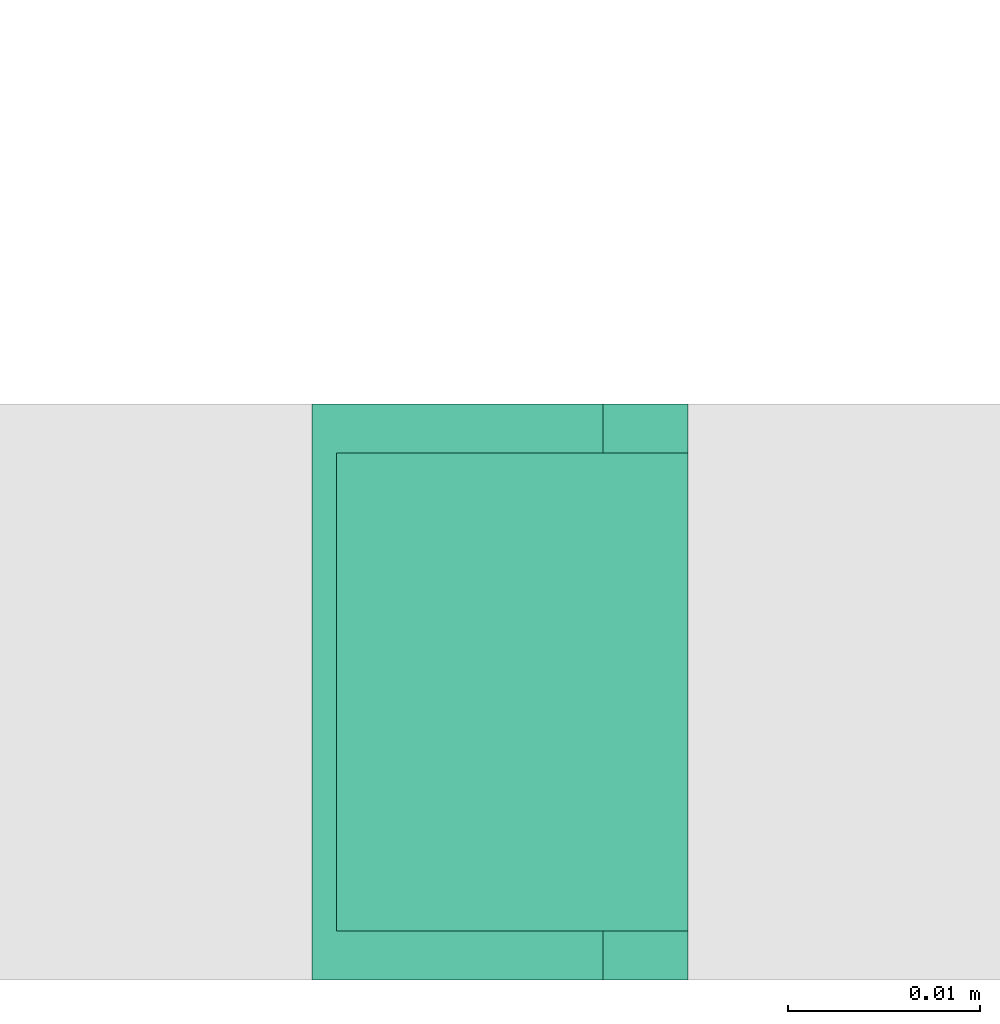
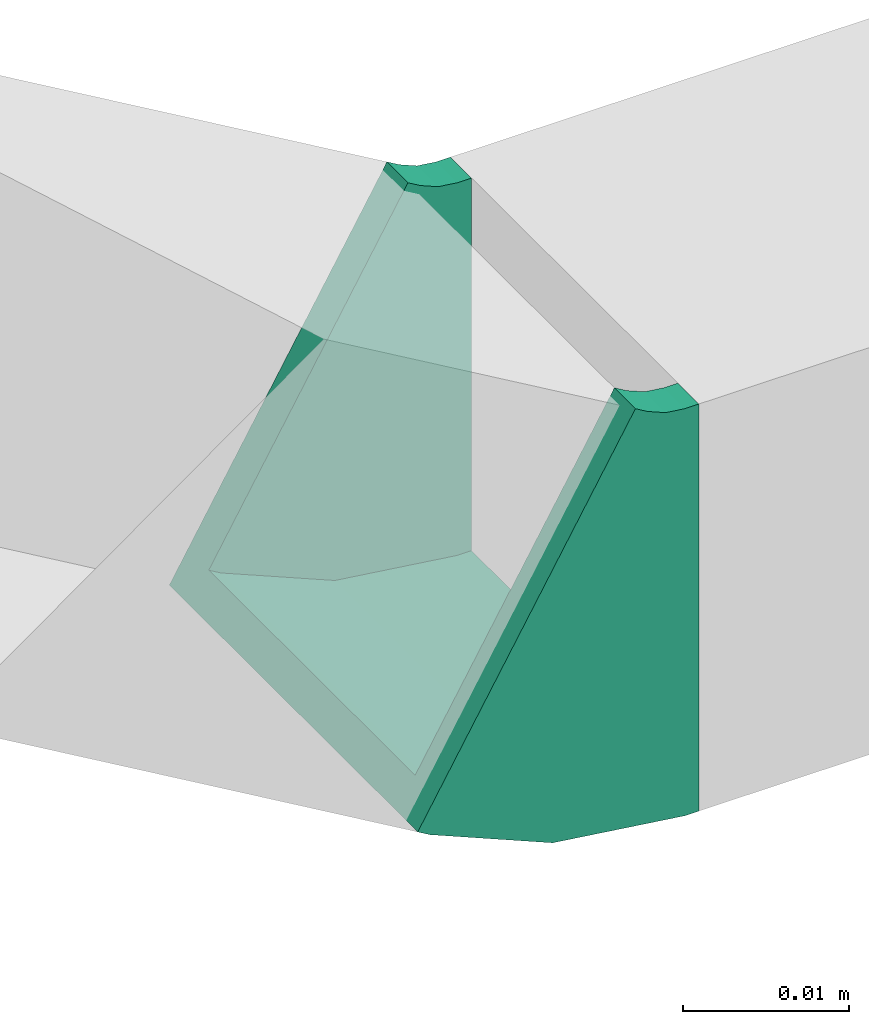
# One storey, part 152 of 153: 1 flow fitting.
"""IFC2X3 building model written with IfcOpenShell, lengths in metres."""

from ifc_helpers import new_model, entity, si_unit, converted_unit, derived_unit, direction, frame, origin, place, context, subcontext, project, spatial, faceted_brep, source, transform, mapped, type_object, type_shapes, element, save


model = new_model("IFC2X3")

# Units and contexts
model_context = context("Model", 3, precision=1e-05, world=origin(), true_north=direction((6.12303176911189e-17, 1.0)))
body_context = subcontext(model_context, "Body", "Model", "MODEL_VIEW")
ifc_project = project(units=[si_unit("LENGTHUNIT", "METRE"), si_unit("AREAUNIT", "SQUARE_METRE"), si_unit("VOLUMEUNIT", "CUBIC_METRE"), converted_unit("PLANEANGLEUNIT", "DEGREE", entity("IfcRatioMeasure", 0.0174532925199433), si_unit("PLANEANGLEUNIT", "RADIAN"), dimensions=[0, 0, 0, 0, 0, 0, 0]), si_unit("MASSUNIT", "GRAM", prefix="KILO"), derived_unit("MASSDENSITYUNIT", [(si_unit("MASSUNIT", "GRAM", prefix="KILO"), 1), (si_unit("LENGTHUNIT", "METRE"), -3)]), si_unit("TIMEUNIT", "SECOND"), si_unit("FREQUENCYUNIT", "HERTZ"), si_unit("THERMODYNAMICTEMPERATUREUNIT", "DEGREE_CELSIUS"), derived_unit("THERMALTRANSMITTANCEUNIT", [(si_unit("MASSUNIT", "GRAM", prefix="KILO"), 1), (si_unit("THERMODYNAMICTEMPERATUREUNIT", "KELVIN"), -1), (si_unit("TIMEUNIT", "SECOND"), -3)]), derived_unit("VOLUMETRICFLOWRATEUNIT", [(si_unit("LENGTHUNIT", "METRE"), 3), (si_unit("TIMEUNIT", "SECOND"), -1)]), si_unit("ELECTRICCURRENTUNIT", "AMPERE"), si_unit("ELECTRICVOLTAGEUNIT", "VOLT"), si_unit("POWERUNIT", "WATT"), si_unit("FORCEUNIT", "NEWTON"), si_unit("ILLUMINANCEUNIT", "LUX"), si_unit("LUMINOUSFLUXUNIT", "LUMEN"), si_unit("LUMINOUSINTENSITYUNIT", "CANDELA"), derived_unit("USERDEFINED", [(si_unit("MASSUNIT", "GRAM", prefix="KILO"), -1), (si_unit("LENGTHUNIT", "METRE"), -2), (si_unit("TIMEUNIT", "SECOND"), 3), (si_unit("LUMINOUSFLUXUNIT", "LUMEN"), 1)]), derived_unit("LINEARVELOCITYUNIT", [(si_unit("LENGTHUNIT", "METRE"), 1), (si_unit("TIMEUNIT", "SECOND"), -1)]), si_unit("PRESSUREUNIT", "PASCAL"), derived_unit("USERDEFINED", [(si_unit("LENGTHUNIT", "METRE"), -2), (si_unit("MASSUNIT", "GRAM", prefix="KILO"), 1), (si_unit("TIMEUNIT", "SECOND"), -2)])], contexts=[model_context])

# Site, building, storey
site_placement = place(None, origin())
site = spatial("IfcSite", under=ifc_project, at=site_placement, Name="Default", CompositionType="ELEMENT")
building_placement = place(site_placement, origin())
building = spatial("IfcBuilding", under=site, at=building_placement, CompositionType="ELEMENT")
storey_placement = place(building_placement, frame((0.0, 0.0, -4.62)))
storey = spatial("IfcBuildingStorey", under=building, at=storey_placement, Name="S02", CompositionType="ELEMENT", Elevation=-4.62)

# Flow fitting
cable_carrier_fitting_type = type_object("IfcCableCarrierFittingType", Name="E_Bend_Vertical_Inside_CA_Generic_MEPcontent", PredefinedType="NOTDEFINED")
shared_shape = source(origin(), body_context, "Body", "Brep", [
    faceted_brep([(-0.0028826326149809, 0.0156974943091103, 0.01246000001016), (-0.0028826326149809, 0.0156974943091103, 0.015), (0.0122889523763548, -0.0101834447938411, 0.015), (0.0122889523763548, -0.0101834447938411, -0.015), (-0.0028826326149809, 0.0156974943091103, -0.015), (-0.00288263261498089, 0.0156974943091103, -0.01246000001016), (0.0110044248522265, -0.00799219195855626, -0.01246000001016), (0.0110044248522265, -0.00799219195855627, 0.01246000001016), (-0.00545168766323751, 0.015, -0.01246000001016), (-0.00545168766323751, 0.015, -0.015), (-0.00545168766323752, -0.015, -0.015), (-0.00545168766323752, -0.015, 0.015), (-0.00545168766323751, 0.015, 0.015), (-0.00545168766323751, 0.015, 0.01246000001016), (-0.00545168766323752, -0.01246000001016, 0.01246000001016), (-0.00545168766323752, -0.01246000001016, -0.01246000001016), (0.0037397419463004, -0.0137744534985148, 0.015), (-0.00412065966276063, 0.0151774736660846, 0.015), (-0.00412065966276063, 0.0151774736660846, 0.01246000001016), (0.00307422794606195, -0.0113231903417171, 0.01246000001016), (0.00307422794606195, -0.0113231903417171, -0.01246000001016), (-0.00412065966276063, 0.0151774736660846, -0.01246000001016), (-0.00412065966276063, 0.0151774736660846, -0.015), (0.0037397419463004, -0.0137744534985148, -0.015)], [[[0, 1, 2, 3, 4, 5, 6, 7]], [[8, 9, 10, 11, 12, 13, 14, 15]], [[12, 11, 16, 2, 1, 17]], [[18, 0, 7, 19, 14, 13]], [[8, 15, 20, 6, 5, 21]], [[22, 4, 3, 23, 10, 9]], [[11, 10, 23, 16]], [[16, 23, 3, 2]], [[21, 22, 9, 8]], [[12, 17, 18, 13]], [[5, 4, 22, 21]], [[1, 0, 18, 17]], [[14, 19, 20, 15]], [[7, 6, 20, 19]]]),
    faceted_brep([(-0.00288263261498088, 0.0156974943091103, 0.015), (-0.00288263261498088, 0.0156974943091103, 0.01246000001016), (0.0110044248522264, -0.00799219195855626, 0.01246000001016), (0.0110044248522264, -0.00799219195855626, -0.01246000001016), (-0.00288263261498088, 0.0156974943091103, -0.01246000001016), (-0.00288263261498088, 0.0156974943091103, -0.015), (0.0122889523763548, -0.0101834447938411, -0.015), (0.0122889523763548, -0.0101834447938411, 0.015), (-0.00201993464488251, 0.0162032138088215, 0.015), (0.0131516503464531, -0.00967772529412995, 0.015), (0.0131516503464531, -0.00967772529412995, -0.015), (-0.00201993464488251, 0.0162032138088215, -0.015), (-0.00201993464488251, 0.0162032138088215, -0.01246000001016), (0.0118671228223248, -0.00748647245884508, -0.01246000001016), (0.0118671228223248, -0.00748647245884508, 0.01246000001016), (-0.00201993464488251, 0.0162032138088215, 0.01246000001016)], [[[0, 1, 2, 3, 4, 5, 6, 7]], [[8, 9, 10, 11, 12, 13, 14, 15]], [[6, 5, 11, 10]], [[4, 3, 13, 12]], [[2, 1, 15, 14]], [[0, 7, 9, 8]], [[1, 0, 8, 15]], [[3, 2, 14, 13]], [[5, 4, 12, 11]], [[7, 6, 10, 9]]]),
    faceted_brep([(-0.00545168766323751, 0.015, 0.015), (-0.00545168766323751, -0.015, 0.015), (-0.00545168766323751, -0.015, -0.015), (-0.00545168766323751, 0.015, -0.015), (-0.00545168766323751, 0.015, -0.01246000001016), (-0.00545168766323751, -0.01246000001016, -0.01246000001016), (-0.00545168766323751, -0.01246000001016, 0.01246000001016), (-0.00545168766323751, 0.015, 0.01246000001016), (-0.00645168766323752, 0.015, 0.015), (-0.00645168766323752, 0.015, 0.01246000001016), (-0.00645168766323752, -0.01246000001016, 0.01246000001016), (-0.00645168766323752, -0.01246000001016, -0.01246000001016), (-0.00645168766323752, 0.015, -0.01246000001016), (-0.00645168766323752, 0.015, -0.015), (-0.00645168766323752, -0.015, -0.015), (-0.00645168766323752, -0.015, 0.015)], [[[0, 1, 2, 3, 4, 5, 6, 7]], [[8, 9, 10, 11, 12, 13, 14, 15]], [[1, 0, 8, 15]], [[7, 6, 10, 9]], [[5, 4, 12, 11]], [[3, 2, 14, 13]], [[2, 1, 15, 14]], [[4, 3, 13, 12]], [[6, 5, 11, 10]], [[0, 7, 9, 8]]]),
])
type_shapes(cable_carrier_fitting_type, [shared_shape])
flow_fitting_placement = place(storey_placement, frame((60.1519173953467, -195.835320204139, 3.21787124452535), z_axis=(0.0, 1.0, 0.0), x_axis=(-1.0, 0.0, 0.0)))
element("IfcFlowFitting", 1, at=flow_fitting_placement, inside=storey, type_object=cable_carrier_fitting_type, Name="E_Bend_Vertical_Inside_CA_Generic_MEPcontent:E_Bend_Vertical_Inside_CA_Generic_MEPcontent", ObjectType="E_Bend_Vertical_Inside_CA_Generic_MEPcontent:E_Bend_Vertical_Inside_CA_Generic_MEPcontent", context=body_context, shape_type="MappedRepresentation", body=[
    mapped(shared_shape, transform((0.0, 0.0, 0.0), scale=1.0)),
])

save(model, "model.ifc")
